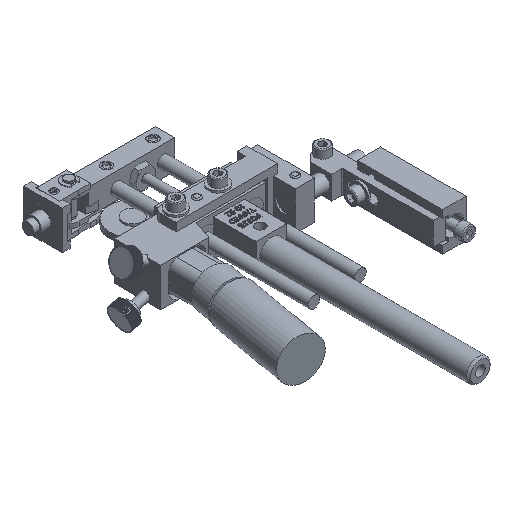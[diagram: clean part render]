
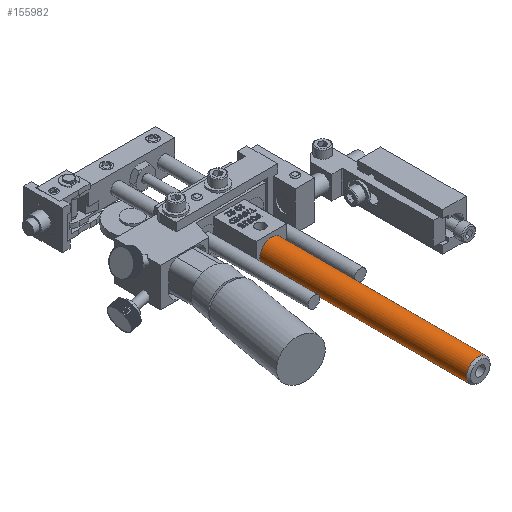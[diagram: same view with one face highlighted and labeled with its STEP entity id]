
A CAD part, isometric view. The second image highlights one B-rep face of the part: STEP entity #155982.
In plain terms, the highlighted cylindrical face has radius 4.763 mm (diameter 9.525 mm), a full revolution.
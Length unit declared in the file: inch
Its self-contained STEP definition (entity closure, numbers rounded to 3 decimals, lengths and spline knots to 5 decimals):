
#155758=CARTESIAN_POINT('',(0.44663,-2.32333,-0.04751));
#155759=VERTEX_POINT('',#155758);
#155760=CARTESIAN_POINT('',(0.44663,-2.32333,-0.23501));
#155761=DIRECTION('',(0.0,1.0,0.0));
#155762=DIRECTION('',(0.0,0.0,-1.0));
#155763=AXIS2_PLACEMENT_3D('',#155760,#155761,#155762);
#155764=CIRCLE('',#155763,0.1875);
#155765=EDGE_CURVE('',#155759,#155759,#155764,.T.);
#155963=CARTESIAN_POINT('',(0.44663,-2.32333,-0.23501));
#155964=DIRECTION('',(0.,-1.0,0.));
#155965=DIRECTION('',(0.0,0.0,-1.0));
#155966=AXIS2_PLACEMENT_3D('',#155963,#155964,#155965);
#155967=CYLINDRICAL_SURFACE('',#155966,0.1875);
#155968=ORIENTED_EDGE('',*,*,#155765,.F.);
#155969=EDGE_LOOP('',(#155968));
#155970=FACE_OUTER_BOUND('',#155969,.T.);
#155971=CARTESIAN_POINT('',(0.44663,-5.66833,-0.04751));
#155972=VERTEX_POINT('',#155971);
#155973=CARTESIAN_POINT('',(0.44663,-5.66833,-0.23501));
#155974=DIRECTION('',(0.0,-1.0,0.0));
#155975=DIRECTION('',(0.0,0.0,-1.0));
#155976=AXIS2_PLACEMENT_3D('',#155973,#155974,#155975);
#155977=CIRCLE('',#155976,0.1875);
#155978=EDGE_CURVE('',#155972,#155972,#155977,.T.);
#155979=ORIENTED_EDGE('',*,*,#155978,.F.);
#155980=EDGE_LOOP('',(#155979));
#155981=FACE_BOUND('',#155980,.T.);
#155982=ADVANCED_FACE('',(#155970,#155981),#155967,.T.);
